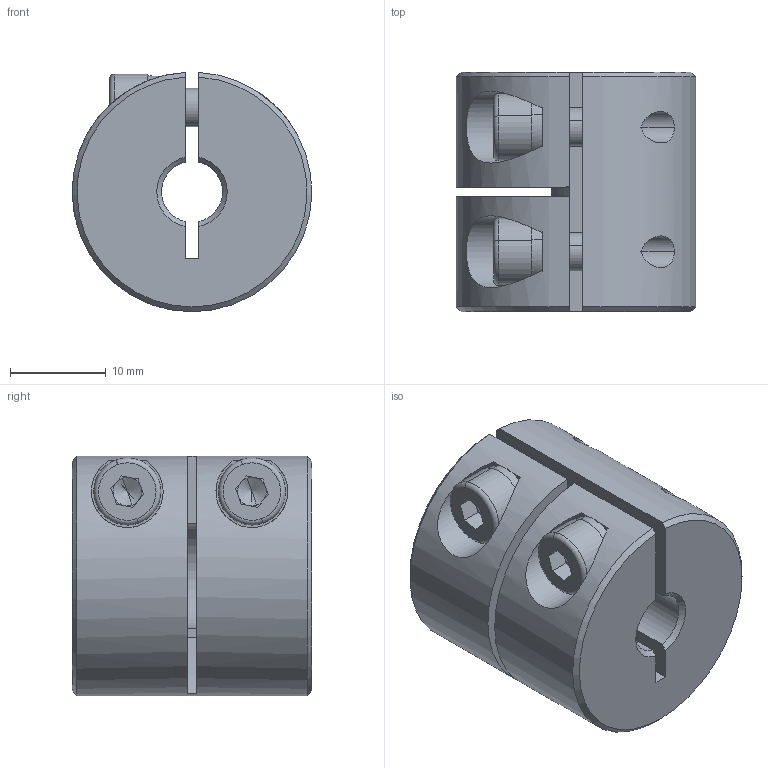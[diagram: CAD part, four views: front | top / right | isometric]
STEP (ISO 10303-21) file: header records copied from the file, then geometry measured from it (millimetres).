
FILE_DESCRIPTION (( 'STEP AP203' ), '1' );
FILE_NAME ('LL-B-D25L25-6.35-11.STEP', '2021-11-05T06:34:09', ( '' ), ( '' ), 'SwSTEP 2.0', 'SolidWorks 2018', '' );
FILE_SCHEMA (( 'CONFIG_CONTROL_DESIGN' ));
Length unit declared in the file: millimetre
Products named in the file (1): LL-B-D25L25-6.35-11
Bounding box: 24.99 x 25 x 24.98 mm (x, y, z)
Volume: 9901.4 mm3; surface area: 4956.5 mm2
Topology: 1 solids, 1 shells, 104 faces, 270 edges, 170 vertices
Faces by surface type: plane 52, cylinder 37, cone 11, torus 4
Entity records: 3471 total; most frequent: CARTESIAN_POINT 815, DIRECTION 560, ORIENTED_EDGE 532, EDGE_CURVE 266, AXIS2_PLACEMENT_3D 215, VERTEX_POINT 170, LINE 130, VECTOR 130
